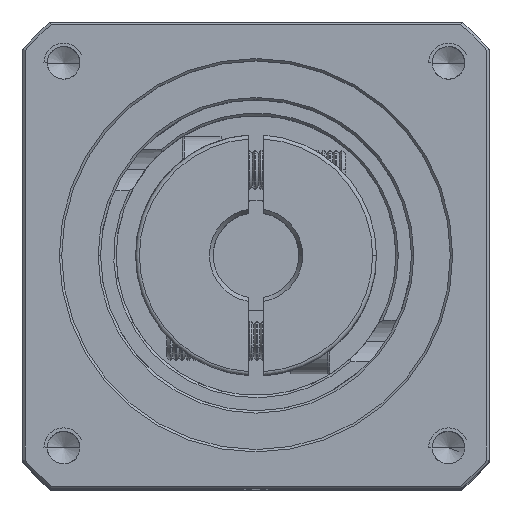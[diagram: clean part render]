
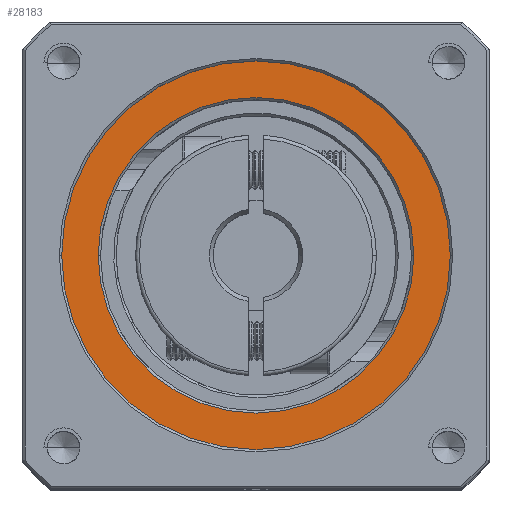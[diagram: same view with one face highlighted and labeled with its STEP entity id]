
A CAD part, top view. The second image highlights one B-rep face of the part: STEP entity #28183.
In plain terms, the highlighted planar face has unit normal (0, 0, 1).
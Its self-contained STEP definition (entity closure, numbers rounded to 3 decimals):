
#3217 = AXIS2_PLACEMENT_3D ( 'NONE', #82681, #91821, #41393 ) ;
#3763 = CIRCLE ( 'NONE', #3217, 20.3 ) ;
#5567 = CIRCLE ( 'NONE', #89690, 25. ) ;
#8770 = CIRCLE ( 'NONE', #68283, 20.3 ) ;
#10205 = CARTESIAN_POINT ( 'NONE',  ( -60.605, 13.236, 12.959 ) ) ;
#14342 = DIRECTION ( 'NONE',  ( 0., 0., 1. ) ) ;
#15609 = CIRCLE ( 'NONE', #76690, 25. ) ;
#21643 = ORIENTED_EDGE ( 'NONE', *, *, #98185, .T. ) ;
#21678 = CARTESIAN_POINT ( 'NONE',  ( -60.605, 13.236, 12.959 ) ) ;
#22698 = CARTESIAN_POINT ( 'NONE',  ( -60.605, 13.236, 12.959 ) ) ;
#22769 = VERTEX_POINT ( 'NONE', #81854 ) ;
#23410 = DIRECTION ( 'NONE',  ( 0., 0., -1. ) ) ;
#28183 = ADVANCED_FACE ( 'NONE', ( #28702, #93170 ), #81723, .T. ) ;
#28702 = FACE_BOUND ( 'NONE', #76447, .T. ) ;
#32940 = VERTEX_POINT ( 'NONE', #48405 ) ;
#41393 = DIRECTION ( 'NONE',  ( 1., 0., 0. ) ) ;
#43832 = EDGE_LOOP ( 'NONE', ( #90110, #21643 ) ) ;
#46290 = ORIENTED_EDGE ( 'NONE', *, *, #87790, .T. ) ;
#47431 = CARTESIAN_POINT ( 'NONE',  ( -60.605, 13.236, 12.959 ) ) ;
#48405 = CARTESIAN_POINT ( 'NONE',  ( -80.905, 13.236, 12.959 ) ) ;
#52182 = DIRECTION ( 'NONE',  ( 0., 0., 1. ) ) ;
#57595 = EDGE_CURVE ( 'NONE', #32940, #65643, #8770, .T. ) ;
#65101 = DIRECTION ( 'NONE',  ( 0., 0., 1. ) ) ;
#65643 = VERTEX_POINT ( 'NONE', #104140 ) ;
#67601 = CARTESIAN_POINT ( 'NONE',  ( -85.605, 13.236, 12.959 ) ) ;
#68283 = AXIS2_PLACEMENT_3D ( 'NONE', #22698, #23410, #98524 ) ;
#68846 = ORIENTED_EDGE ( 'NONE', *, *, #57595, .T. ) ;
#76447 = EDGE_LOOP ( 'NONE', ( #46290, #68846 ) ) ;
#76690 = AXIS2_PLACEMENT_3D ( 'NONE', #10205, #52182, #101844 ) ;
#80620 = DIRECTION ( 'NONE',  ( 1., 0., 0. ) ) ;
#81723 = PLANE ( 'NONE',  #97944 ) ;
#81854 = CARTESIAN_POINT ( 'NONE',  ( -35.605, 13.236, 12.959 ) ) ;
#82681 = CARTESIAN_POINT ( 'NONE',  ( -60.605, 13.236, 12.959 ) ) ;
#84764 = EDGE_CURVE ( 'NONE', #22769, #94545, #5567, .T. ) ;
#87790 = EDGE_CURVE ( 'NONE', #65643, #32940, #3763, .T. ) ;
#89690 = AXIS2_PLACEMENT_3D ( 'NONE', #21678, #14342, #80620 ) ;
#90110 = ORIENTED_EDGE ( 'NONE', *, *, #84764, .T. ) ;
#91821 = DIRECTION ( 'NONE',  ( 0., 0., -1. ) ) ;
#93170 = FACE_OUTER_BOUND ( 'NONE', #43832, .T. ) ;
#94545 = VERTEX_POINT ( 'NONE', #67601 ) ;
#97944 = AXIS2_PLACEMENT_3D ( 'NONE', #47431, #65101, #106386 ) ;
#98185 = EDGE_CURVE ( 'NONE', #94545, #22769, #15609, .T. ) ;
#98524 = DIRECTION ( 'NONE',  ( 1., 0., 0. ) ) ;
#101844 = DIRECTION ( 'NONE',  ( 1., 0., 0. ) ) ;
#104140 = CARTESIAN_POINT ( 'NONE',  ( -40.305, 13.236, 12.959 ) ) ;
#106386 = DIRECTION ( 'NONE',  ( 1., 0., 0. ) ) ;
